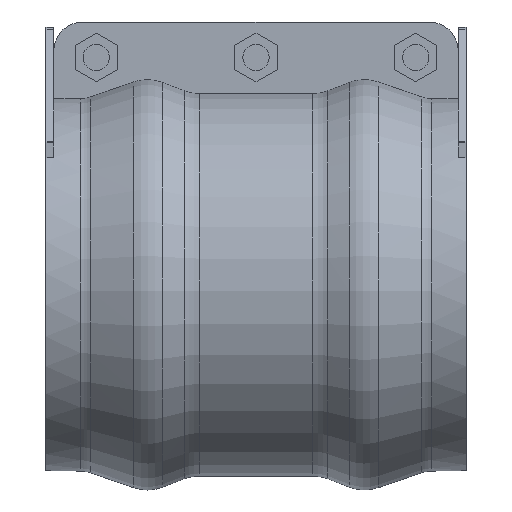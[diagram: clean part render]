
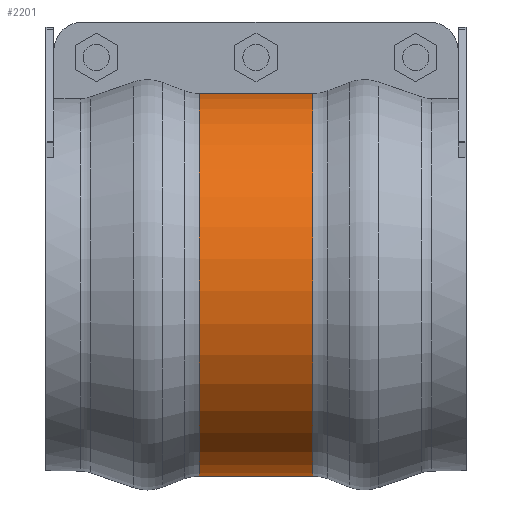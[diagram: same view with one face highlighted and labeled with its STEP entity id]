
A CAD part, front view. The second image highlights one B-rep face of the part: STEP entity #2201.
In plain terms, the highlighted cylindrical face has radius 115.805 mm (diameter 231.611 mm), a partial arc.
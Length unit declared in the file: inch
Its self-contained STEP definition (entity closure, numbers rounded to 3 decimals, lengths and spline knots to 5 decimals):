
#257=FACE_OUTER_BOUND('',#382,.T.);
#382=EDGE_LOOP('',(#1818,#1819,#1820,#1821));
#574=LINE('',#3580,#753);
#577=LINE('',#3657,#756);
#753=VECTOR('',#2893,0.3937);
#756=VECTOR('',#2904,0.3937);
#816=CIRCLE('',#2384,4.55927);
#817=CIRCLE('',#2386,4.55927);
#1017=VERTEX_POINT('',#3572);
#1018=VERTEX_POINT('',#3579);
#1029=VERTEX_POINT('',#3649);
#1030=VERTEX_POINT('',#3656);
#1290=EDGE_CURVE('',#1018,#1017,#574,.T.);
#1305=EDGE_CURVE('',#1030,#1029,#577,.T.);
#1316=EDGE_CURVE('',#1018,#1029,#816,.T.);
#1317=EDGE_CURVE('',#1017,#1030,#817,.T.);
#1818=ORIENTED_EDGE('',*,*,#1290,.T.);
#1819=ORIENTED_EDGE('',*,*,#1317,.T.);
#1820=ORIENTED_EDGE('',*,*,#1305,.T.);
#1821=ORIENTED_EDGE('',*,*,#1316,.F.);
#1994=CYLINDRICAL_SURFACE('',#2385,4.55927);
#2201=ADVANCED_FACE('',(#257),#1994,.T.);
#2384=AXIS2_PLACEMENT_3D('',#3701,#2925,#2926);
#2385=AXIS2_PLACEMENT_3D('',#3702,#2927,#2928);
#2386=AXIS2_PLACEMENT_3D('',#3703,#2929,#2930);
#2893=DIRECTION('',(-1.,0.,0.));
#2904=DIRECTION('',(1.,0.,0.));
#2925=DIRECTION('center_axis',(1.,0.,0.));
#2926=DIRECTION('ref_axis',(0.,0.,-1.));
#2927=DIRECTION('center_axis',(1.,0.,0.));
#2928=DIRECTION('ref_axis',(0.,0.,
-1.));
#2929=DIRECTION('center_axis',(1.,0.,0.));
#2930=DIRECTION('ref_axis',(0.,0.,-1.));
#3572=CARTESIAN_POINT('',(-1.35516,-0.3125,4.54855));
#3579=CARTESIAN_POINT('',(1.35516,-0.3125,4.54855));
#3580=CARTESIAN_POINT('',(0.,-0.3125,4.54855));
#3649=CARTESIAN_POINT('',(1.35516,0.3125,4.54855));
#3656=CARTESIAN_POINT('',(-1.35516,0.3125,4.54855));
#3657=CARTESIAN_POINT('',(0.,0.3125,4.54855));
#3701=CARTESIAN_POINT('Origin',(1.35516,0.,0.));
#3702=CARTESIAN_POINT('Origin',(0.,0.,0.));
#3703=CARTESIAN_POINT('Origin',(-1.35516,0.,
0.));
